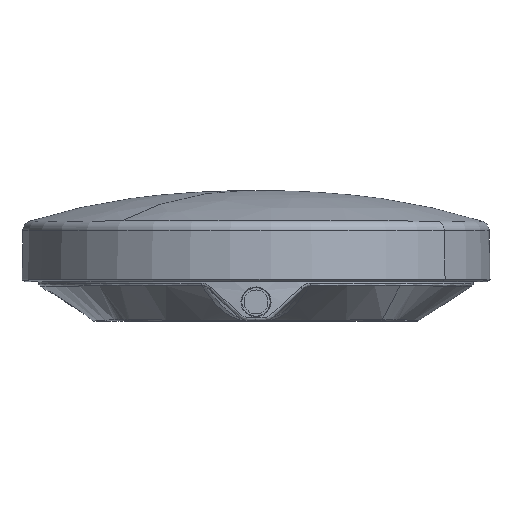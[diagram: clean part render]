
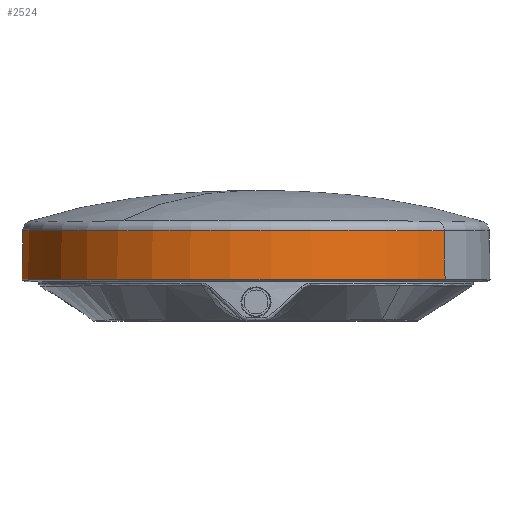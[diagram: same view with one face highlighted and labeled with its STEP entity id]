
A CAD part, top view. The second image highlights one B-rep face of the part: STEP entity #2524.
In plain terms, the highlighted conical face has half-angle 1 degrees and reference radius 68.203 mm.
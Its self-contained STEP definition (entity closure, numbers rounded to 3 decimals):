
#2524 = ADVANCED_FACE ( 'NONE', ( #38968 ), #84245, .T. ) ;
#4803 = CARTESIAN_POINT ( 'NONE',  ( 0., 10.333, 0. ) ) ;
#5172 = EDGE_LOOP ( 'NONE', ( #111725, #111057, #28018, #35415 ) ) ;
#6578 = LINE ( 'NONE', #16570, #56313 ) ;
#11442 = AXIS2_PLACEMENT_3D ( 'NONE', #4803, #126064, #28289 ) ;
#15089 = AXIS2_PLACEMENT_3D ( 'NONE', #105467, #74079, #85503 ) ;
#16570 = CARTESIAN_POINT ( 'NONE',  ( 0., 10.333, 68.203 ) ) ;
#20150 = EDGE_CURVE ( 'NONE', #21039, #119404, #76622, .T. ) ;
#21039 = VERTEX_POINT ( 'NONE', #28622 ) ;
#23098 = DIRECTION ( 'NONE',  ( 0., -1., -0.017 ) ) ;
#28018 = ORIENTED_EDGE ( 'NONE', *, *, #92675, .T. ) ;
#28289 = DIRECTION ( 'NONE',  ( 0., 0., -1. ) ) ;
#28622 = CARTESIAN_POINT ( 'NONE',  ( 0., -5.978, -68.488 ) ) ;
#34455 = LINE ( 'NONE', #133651, #36670 ) ;
#35415 = ORIENTED_EDGE ( 'NONE', *, *, #20150, .T. ) ;
#36670 = VECTOR ( 'NONE', #23098, 1000. ) ;
#38968 = FACE_OUTER_BOUND ( 'NONE', #5172, .T. ) ;
#49315 = DIRECTION ( 'NONE',  ( 0., -1., 0.017 ) ) ;
#51294 = CARTESIAN_POINT ( 'NONE',  ( 0., 8.225, -68.24 ) ) ;
#56313 = VECTOR ( 'NONE', #49315, 1000. ) ;
#57933 = CARTESIAN_POINT ( 'NONE',  ( 0., -5.978, 68.488 ) ) ;
#69802 = DIRECTION ( 'NONE',  ( 0., -1., 0. ) ) ;
#70506 = DIRECTION ( 'NONE',  ( 0., 0., -1. ) ) ;
#74079 = DIRECTION ( 'NONE',  ( 0., 1., 0. ) ) ;
#76622 = CIRCLE ( 'NONE', #15089, 68.488 ) ;
#84245 = CONICAL_SURFACE ( 'NONE', #11442, 68.203, 0.017 ) ;
#85503 = DIRECTION ( 'NONE',  ( 0., 0., 1. ) ) ;
#88066 = AXIS2_PLACEMENT_3D ( 'NONE', #136862, #69802, #70506 ) ;
#92675 = EDGE_CURVE ( 'NONE', #136464, #21039, #34455, .T. ) ;
#105467 = CARTESIAN_POINT ( 'NONE',  ( 0., -5.978, 0. ) ) ;
#111057 = ORIENTED_EDGE ( 'NONE', *, *, #122270, .T. ) ;
#111725 = ORIENTED_EDGE ( 'NONE', *, *, #134941, .F. ) ;
#117558 = VERTEX_POINT ( 'NONE', #119619 ) ;
#117749 = CIRCLE ( 'NONE', #88066, 68.24 ) ;
#119404 = VERTEX_POINT ( 'NONE', #57933 ) ;
#119619 = CARTESIAN_POINT ( 'NONE',  ( 0., 8.225, 68.24 ) ) ;
#122270 = EDGE_CURVE ( 'NONE', #117558, #136464, #117749, .T. ) ;
#126064 = DIRECTION ( 'NONE',  ( 0., -1., 0. ) ) ;
#133651 = CARTESIAN_POINT ( 'NONE',  ( 0., 10.333, -68.203 ) ) ;
#134941 = EDGE_CURVE ( 'NONE', #117558, #119404, #6578, .T. ) ;
#136464 = VERTEX_POINT ( 'NONE', #51294 ) ;
#136862 = CARTESIAN_POINT ( 'NONE',  ( 0., 8.225, 0. ) ) ;
